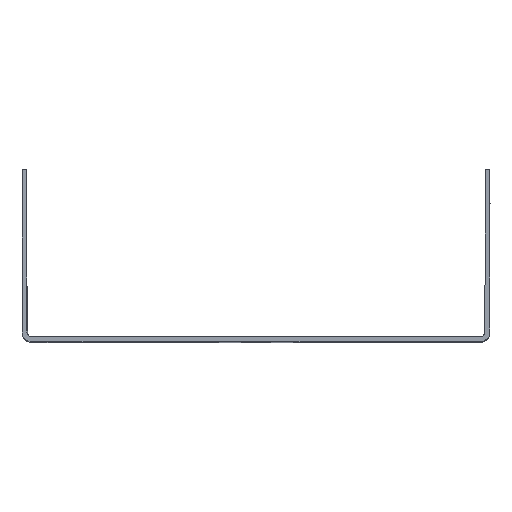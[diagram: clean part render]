
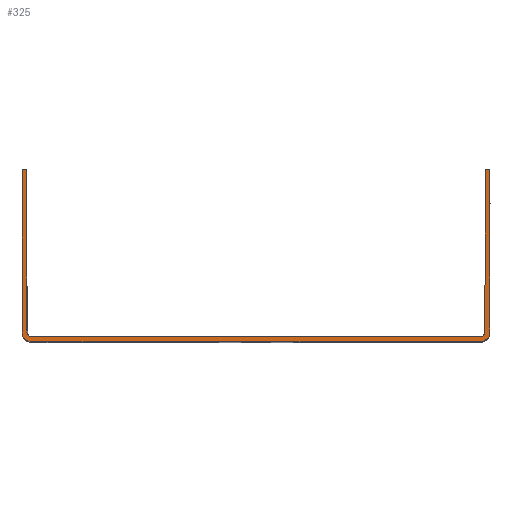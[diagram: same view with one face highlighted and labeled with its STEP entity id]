
A CAD part, top view. The second image highlights one B-rep face of the part: STEP entity #325.
In plain terms, the highlighted planar face has unit normal (0, 0, 1).
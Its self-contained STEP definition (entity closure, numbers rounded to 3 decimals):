
#18=PLANE($,#1141);
#325=ADVANCED_FACE($,(#375),#18,.T.);
#375=FACE_OUTER_BOUND($,#425,.T.);
#425=EDGE_LOOP($,(#596,#597,#598,#599));
#596=ORIENTED_EDGE($,*,*,#765,.F.);
#597=ORIENTED_EDGE($,*,*,#766,.F.);
#598=ORIENTED_EDGE($,*,*,#767,.F.);
#599=ORIENTED_EDGE($,*,*,#764,.F.);
#764=EDGE_CURVE($,#916,#919,#1046,.T.);
#765=EDGE_CURVE($,#917,#916,#1104,.T.);
#766=EDGE_CURVE($,#918,#917,#1047,.T.);
#767=EDGE_CURVE($,#919,#918,#1105,.T.);
#916=VERTEX_POINT($,#3514);
#917=VERTEX_POINT($,#3515);
#918=VERTEX_POINT($,#3516);
#919=VERTEX_POINT($,#3517);
#1046=B_SPLINE_CURVE_WITH_KNOTS($,1,(#3487,#3488),.UNSPECIFIED.,.F.,.F.,
(2,2),(-1.,0.),.UNSPECIFIED.);
#1047=B_SPLINE_CURVE_WITH_KNOTS($,1,(#3500,#3501),.UNSPECIFIED.,.F.,.F.,
(2,2),(163.283,164.283),.UNSPECIFIED.);
#1104=(
BOUNDED_CURVE()
B_SPLINE_CURVE(2,(#3489,#3490,#3491,#3492,#3493,#3494,#3495,#3496,#3497,
#3498,#3499),.UNSPECIFIED.,.F.,.F.)
B_SPLINE_CURVE_WITH_KNOTS((3,2,2,2,2,3),(164.283,197.283,
200.425,291.425,294.566,327.566),.UNSPECIFIED.)
CURVE()
GEOMETRIC_REPRESENTATION_ITEM()
RATIONAL_B_SPLINE_CURVE((1.,1.,1.,0.707,1.,1.,1.,0.707,
1.,1.,1.))
REPRESENTATION_ITEM($)
);
#1105=(
BOUNDED_CURVE()
B_SPLINE_CURVE(2,(#3502,#3503,#3504,#3505,#3506,#3507,#3508,#3509,#3510,
#3511,#3512),.UNSPECIFIED.,.F.,.F.)
B_SPLINE_CURVE_WITH_KNOTS((3,2,2,2,2,3),(0.,33.,36.142,127.142,
130.283,163.283),.UNSPECIFIED.)
CURVE()
GEOMETRIC_REPRESENTATION_ITEM()
RATIONAL_B_SPLINE_CURVE((1.,1.,1.,0.707,1.,1.,1.,0.707,
1.,1.,1.))
REPRESENTATION_ITEM($)
);
#1141=AXIS2_PLACEMENT_3D($,#3513,#1152,$);
#1152=DIRECTION($,(0.,0.,1.));
#3487=CARTESIAN_POINT($,(46.5,34.,80.));
#3488=CARTESIAN_POINT($,(47.5,34.,80.));
#3489=CARTESIAN_POINT($,(-46.5,34.,80.));
#3490=CARTESIAN_POINT($,(-46.5,17.5,80.));
#3491=CARTESIAN_POINT($,(-46.5,1.,80.));
#3492=CARTESIAN_POINT($,(-46.5,0.,80.));
#3493=CARTESIAN_POINT($,(-45.5,0.,80.));
#3494=CARTESIAN_POINT($,(0.,0.,80.));
#3495=CARTESIAN_POINT($,(45.5,0.,80.));
#3496=CARTESIAN_POINT($,(46.5,0.,80.));
#3497=CARTESIAN_POINT($,(46.5,1.,80.));
#3498=CARTESIAN_POINT($,(46.5,17.5,80.));
#3499=CARTESIAN_POINT($,(46.5,34.,80.));
#3500=CARTESIAN_POINT($,(-47.5,34.,80.));
#3501=CARTESIAN_POINT($,(-46.5,34.,80.));
#3502=CARTESIAN_POINT($,(47.5,34.,80.));
#3503=CARTESIAN_POINT($,(47.5,17.5,80.));
#3504=CARTESIAN_POINT($,(47.5,1.,80.));
#3505=CARTESIAN_POINT($,(47.5,-1.,80.));
#3506=CARTESIAN_POINT($,(45.5,-1.,80.));
#3507=CARTESIAN_POINT($,(0.,-1.,80.));
#3508=CARTESIAN_POINT($,(-45.5,-1.,80.));
#3509=CARTESIAN_POINT($,(-47.5,-1.,80.));
#3510=CARTESIAN_POINT($,(-47.5,1.,80.));
#3511=CARTESIAN_POINT($,(-47.5,17.5,80.));
#3512=CARTESIAN_POINT($,(-47.5,34.,80.));
#3513=CARTESIAN_POINT($,(-47.5,34.,80.));
#3514=CARTESIAN_POINT($,(46.5,34.,80.));
#3515=CARTESIAN_POINT($,(-46.5,34.,80.));
#3516=CARTESIAN_POINT($,(-47.5,34.,80.));
#3517=CARTESIAN_POINT($,(47.5,34.,80.));
